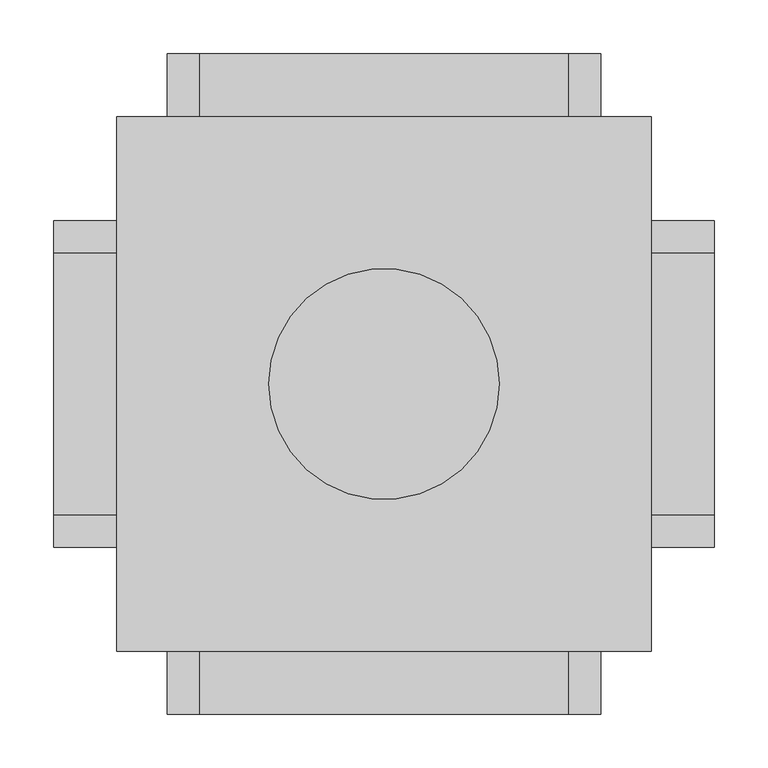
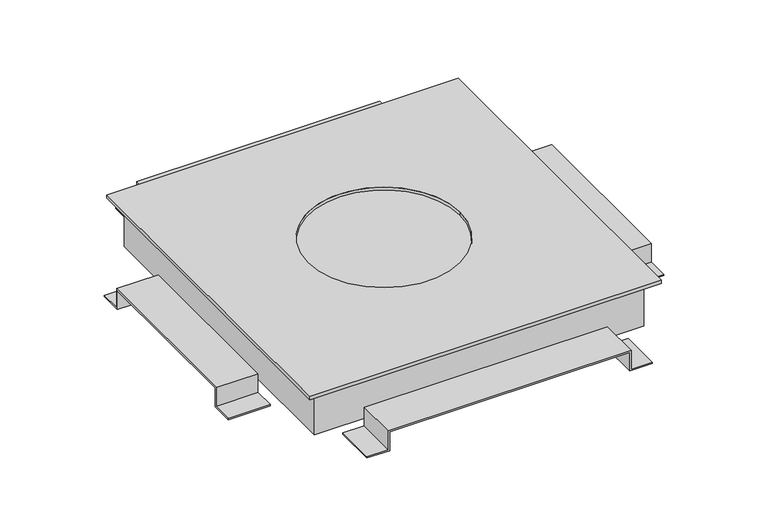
"""IFC4 building model written with IfcOpenShell, lengths in millimetres: cable carrier fitting geometry, Electrical-Installations_Hager_Universal-Junction-Box-With-Retaining-Tabs-Size-3 : Universal junction box with retaining tabs size 3."""

from ifc_helpers import new_model, si_unit, frame, origin, place, context, project, spatial, polyline, circle_curve, outline, extrude, faceted_brep, source, transform, mapped, element, save
from ifc_brep_helpers import plane_surface, revolved_surface, advanced_brep


def cable_carrier_fitting_9fe9072b(model_context):
    return source(origin(), model_context, "Body", "SolidModel", [
        extrude(outline(polyline([(-14.0, -202.0), (-14.0, -170.0), (14.0, -170.0), (14.0, 170.0), (-14.0, 170.0), (-14.0, 202.0), (-12.0, 202.0), (-12.0, 172.0), (16.0, 172.0), (16.0, -172.0), (-12.0, -172.0), (-12.0, -202.0), (-14.0, -202.0)])), frame((0.0, 249.0, 0.0), z_axis=(0.0, 1.0, 0.0), x_axis=(0.0, 0.0, 1.0)), (0.0, 0.0, 1.0), 59.0),
        extrude(outline(polyline([(-152.0, -14.0), (-152.0, -12.0), (-122.0, -12.0), (-122.0, 16.0), (122.0, 16.0), (122.0, -12.0), (152.0, -12.0), (152.0, -14.0), (120.0, -14.0), (120.0, 14.0), (-120.0, 14.0), (-120.0, -14.0), (-152.0, -14.0)])), frame((-308.0, 0.0, 0.0), z_axis=(1.0, 0.0, 0.0), x_axis=(0.0, 1.0, 0.0)), (0.0, 0.0, 1.0), 59.0),
        extrude(outline(polyline([(-14.0, -202.0), (-14.0, -170.0), (14.0, -170.0), (14.0, 170.0), (-14.0, 170.0), (-14.0, 202.0), (-12.0, 202.0), (-12.0, 172.0), (16.0, 172.0), (16.0, -172.0), (-12.0, -172.0), (-12.0, -202.0), (-14.0, -202.0)])), frame((0.0, -308.0, 0.0), z_axis=(0.0, 1.0, 0.0), x_axis=(0.0, 0.0, 1.0)), (0.0, 0.0, 1.0), 59.0),
        extrude(outline(polyline([(-152.0, -14.0), (-152.0, -12.0), (-122.0, -12.0), (-122.0, 16.0), (122.0, 16.0), (122.0, -12.0), (152.0, -12.0), (152.0, -14.0), (120.0, -14.0), (120.0, 14.0), (-120.0, 14.0), (-120.0, -14.0), (-152.0, -14.0)])), frame((249.0, 0.0, 0.0), z_axis=(1.0, 0.0, 0.0), x_axis=(0.0, 1.0, 0.0)), (0.0, 0.0, 1.0), 59.0),
        advanced_brep(
        [(-249.0, -249.0, 59.0), (249.0, -249.0, 59.0), (249.0, 249.0, 59.0), (-249.0, 249.0, 59.0), (-107.5, 0.0, 59.0), (107.5, 0.0, 59.0), (-249.0, -249.0, 54.0), (-249.0, 249.0, 54.0), (249.0, 249.0, 54.0), (249.0, -249.0, 54.0), (227.0, 227.0, 54.0), (-227.0, 227.0, 54.0), (-227.0, -227.0, 54.0), (227.0, -227.0, 54.0), (-107.5, 0.0, 54.7820613), (107.5, 0.0, 54.7820613), (227.0, 227.0, 54.7820613), (227.0, -227.0, 54.7820613), (-227.0, -227.0, 54.7820613), (-227.0, 227.0, 54.7820613)],
        [
            (0, 1),
            (1, 2),
            (2, 3),
            (3, 0),
            (4, 5, circle_curve(frame((0.0, 0.0, 59.0), z_axis=(0.0, 0.0, -1.0), x_axis=(1.0, 0.0, 0.0)), 107.5)),
            (5, 4, circle_curve(frame((0.0, 0.0, 59.0), z_axis=(0.0, 0.0, -1.0), x_axis=(1.0, 0.0, 0.0)), 107.5)),
            (6, 7),
            (7, 8),
            (8, 9),
            (9, 6),
            (10, 11),
            (11, 12),
            (12, 13),
            (13, 10),
            (0, 6),
            (9, 1),
            (8, 2),
            (7, 3),
            (4, 14),
            (14, 15, circle_curve(frame((0.0, 0.0, 54.7820613), z_axis=(0.0, 0.0, -1.0), x_axis=(1.0, 0.0, 0.0)), 107.5)),
            (15, 5),
            (15, 14, circle_curve(frame((0.0, 0.0, 54.7820613), z_axis=(0.0, 0.0, -1.0), x_axis=(1.0, 0.0, 0.0)), 107.5)),
            (16, 17),
            (17, 18),
            (18, 19),
            (19, 16),
            (19, 11),
            (10, 16),
            (18, 12),
            (17, 13),
        ],
        [
            plane_surface(frame((-249.0, -249.0, 59.0), z_axis=(0.0, 0.0, 1.0), x_axis=(1.0, 0.0, 0.0))),
            plane_surface(frame((-249.0, -249.0, 54.0), z_axis=(0.0, 0.0, -1.0), x_axis=(-1.0, 0.0, 0.0))),
            plane_surface(frame((-249.0, -249.0, 59.0), z_axis=(0.0, -1.0, 0.0), x_axis=(0.0, 0.0, -1.0))),
            plane_surface(frame((249.0, -249.0, 59.0), z_axis=(1.0, 0.0, 0.0), x_axis=(0.0, 0.0, -1.0))),
            plane_surface(frame((249.0, 249.0, 59.0), z_axis=(0.0, 1.0, 0.0), x_axis=(0.0, 0.0, -1.0))),
            plane_surface(frame((-249.0, 249.0, 59.0), z_axis=(-1.0, 0.0, 0.0), x_axis=(0.0, 0.0, -1.0))),
            revolved_surface(polyline([(107.5, 0.0, 54.7820613), (107.5, 0.0, 59.0)]), (0.0, 0.0, 0.0), (0.0, 0.0, -1.0)),
            plane_surface(frame((-227.0, 227.0, 54.7820613), z_axis=(0.0, 0.0, -1.0), x_axis=(-1.0, 0.0, 0.0))),
            plane_surface(frame((227.0, 227.0, 54.7820613), z_axis=(0.0, -1.0, 0.0), x_axis=(0.0, 0.0, -1.0))),
            plane_surface(frame((-227.0, 227.0, 54.7820613), z_axis=(1.0, 0.0, 0.0), x_axis=(0.0, 0.0, -1.0))),
            plane_surface(frame((-227.0, -227.0, 54.7820613), z_axis=(0.0, 1.0, 0.0), x_axis=(0.0, 0.0, -1.0))),
            plane_surface(frame((227.0, -227.0, 54.7820613), z_axis=(-1.0, 0.0, 0.0), x_axis=(0.0, 0.0, -1.0))),
        ],
        [
            (0, [[1, 2, 3, 4], [5, 6]]),
            (1, [[7, 8, 9, 10], [11, 12, 13, 14]]),
            (2, [[-1, 15, -10, 16]]),
            (3, [[-2, -16, -9, 17]]),
            (4, [[-3, -17, -8, 18]]),
            (5, [[-4, -18, -7, -15]]),
            (6, [[-5, 19, 20, 21]]),
            (6, [[-6, -21, 22, -19]]),
            (7, [[23, 24, 25, 26], [-20, -22]]),
            (8, [[-26, 27, -11, 28]]),
            (9, [[-25, 29, -12, -27]]),
            (10, [[-24, 30, -13, -29]]),
            (11, [[-23, -28, -14, -30]]),
        ],
    ),
        faceted_brep([(-233.0, 233.0, 54.0), (-233.0, -233.0, 54.0), (233.0, -233.0, 54.0), (233.0, 233.0, 54.0), (-227.0, 227.0, 54.0), (227.0, 227.0, 54.0), (227.0, -227.0, 54.0), (-227.0, -227.0, 54.0), (-233.0, 233.0, -14.0), (233.0, 233.0, -14.0), (233.0, -233.0, -14.0), (-233.0, -233.0, -14.0), (227.0, 227.0, -6.1362798), (-227.0, 227.0, -6.1362798), (-227.0, -227.0, -6.1362798), (227.0, -227.0, -6.1362798)], [[[0, 1, 2, 3], [4, 5, 6, 7]], [[8, 9, 10, 11]], [[1, 0, 8, 11]], [[2, 1, 11, 10]], [[3, 2, 10, 9]], [[0, 3, 9, 8]], [[12, 13, 14, 15]], [[13, 12, 5, 4]], [[14, 13, 4, 7]], [[15, 14, 7, 6]], [[12, 15, 6, 5]]]),
    ])


if __name__ == "__main__":
    model = new_model("IFC4")
    model_context = context("Model", 3, world=origin())
    ifc_project = project(units=[si_unit("LENGTHUNIT", "METRE", prefix="MILLI")], contexts=[model_context])
    site = spatial("IfcSite", under=ifc_project)
    building = spatial("IfcBuilding", under=site)
    placement = place(None, origin())
    cable_carrier_fitting_shape = cable_carrier_fitting_9fe9072b(model_context)
    element("IfcCableCarrierFitting", 1, ObjectType="Electrical-Installations_Hager_Universal-Junction-Box-With-Retaining-Tabs-Size-3 : Universal junction box with retaining tabs size 3", at=placement, inside=building, context=model_context, shape_type="MappedRepresentation", body=[
        mapped(cable_carrier_fitting_shape, transform((0.0, 0.0, 0.0), x_axis=(1.0, 0.0, 0.0), y_axis=(0.0, 1.0, 0.0), z_axis=(0.0, 0.0, 1.0))),
    ])
    save(model, "model.ifc")
